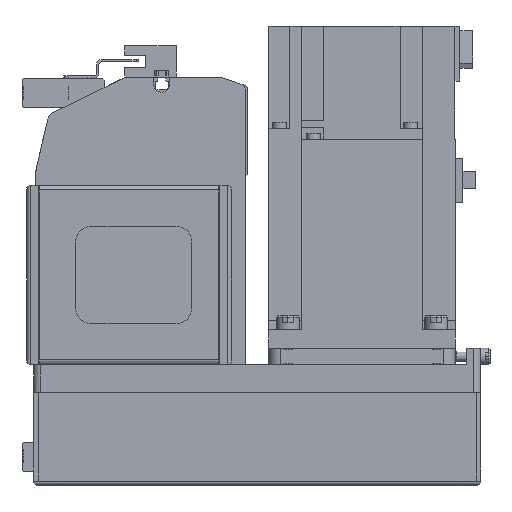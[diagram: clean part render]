
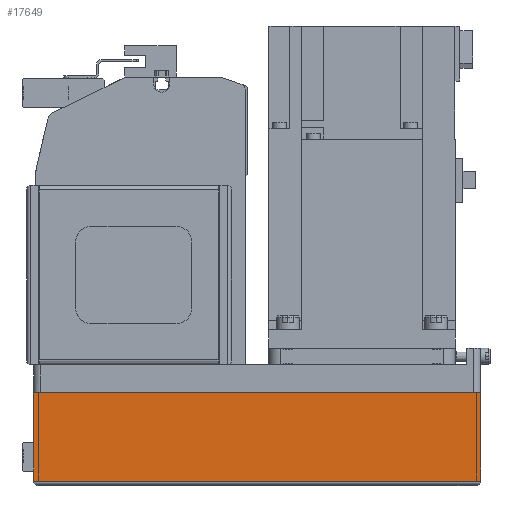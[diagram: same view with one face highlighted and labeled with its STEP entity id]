
A CAD part, left-side view. The second image highlights one B-rep face of the part: STEP entity #17649.
In plain terms, the highlighted planar face has unit normal (-1, 0, 0) as drawn and (0, 1, 0) by its records, which use the part's own axes.
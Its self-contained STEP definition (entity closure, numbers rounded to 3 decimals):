
#2766=ORIENTED_EDGE('',*,*,#7137,.F.);
#2767=ORIENTED_EDGE('',*,*,#7177,.F.);
#2768=ORIENTED_EDGE('',*,*,#7114,.T.);
#2769=ORIENTED_EDGE('',*,*,#7127,.T.);
#7114=EDGE_CURVE('',#9463,#9466,#11274,.T.);
#7127=EDGE_CURVE('',#9466,#9478,#11287,.T.);
#7137=EDGE_CURVE('',#9486,#9478,#11297,.T.);
#7177=EDGE_CURVE('',#9463,#9486,#11315,.T.);
#9463=VERTEX_POINT('',#27118);
#9466=VERTEX_POINT('',#27123);
#9478=VERTEX_POINT('',#27151);
#9486=VERTEX_POINT('',#27171);
#11274=LINE('',#27124,#12910);
#11287=LINE('',#27152,#12923);
#11297=LINE('',#27172,#12933);
#11315=LINE('',#27242,#12951);
#12910=VECTOR('',#21702,1000.);
#12923=VECTOR('',#21721,1000.);
#12933=VECTOR('',#21735,1000.);
#12951=VECTOR('',#21829,1000.);
#14403=EDGE_LOOP('',(#2766,#2767,#2768,#2769));
#15745=FACE_BOUND('',#14403,.T.);
#16920=PLANE('',#18924);
#17649=ADVANCED_FACE('',(#15745),#16920,.T.);
#18924=AXIS2_PLACEMENT_3D('',#27241,#21827,#21828);
#21702=DIRECTION('',(0.,0.,1.));
#21721=DIRECTION('',(1.,0.,0.));
#21735=DIRECTION('',(0.,0.,1.));
#21827=DIRECTION('',(0.,1.,0.));
#21828=DIRECTION('',(0.,0.,1.));
#21829=DIRECTION('',(1.,0.,0.));
#27118=CARTESIAN_POINT('',(-192.,40.,-50.));
#27123=CARTESIAN_POINT('',(-192.,40.,-12.1));
#27124=CARTESIAN_POINT('',(-192.,40.,-50.));
#27151=CARTESIAN_POINT('',(0.,40.,-12.1));
#27152=CARTESIAN_POINT('',(-192.,40.,-12.1));
#27171=CARTESIAN_POINT('',(0.,40.,-50.));
#27172=CARTESIAN_POINT('',(0.,40.,-50.));
#27241=CARTESIAN_POINT('',(-192.,40.,-50.));
#27242=CARTESIAN_POINT('',(-192.,40.,-50.));
